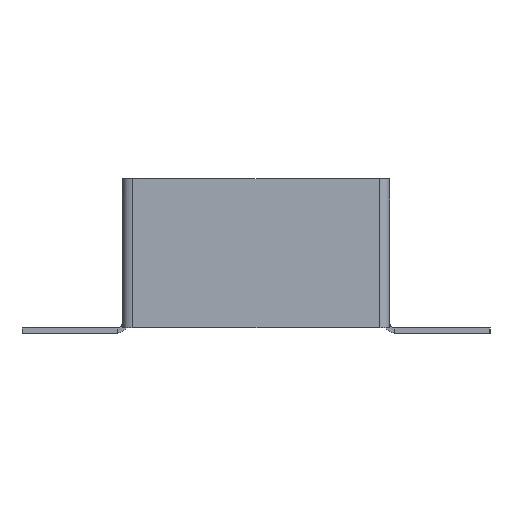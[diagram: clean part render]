
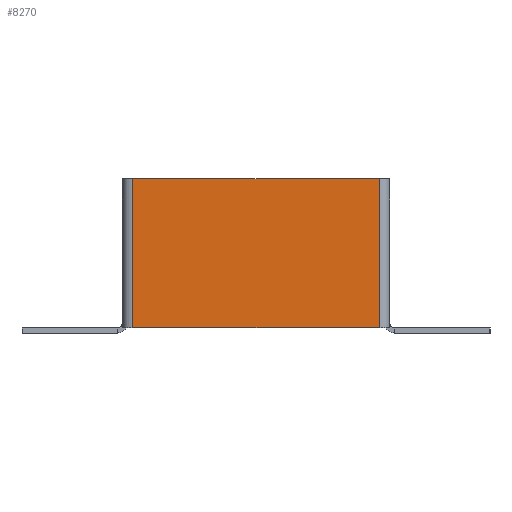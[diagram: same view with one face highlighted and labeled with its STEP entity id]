
A CAD part, front view. The second image highlights one B-rep face of the part: STEP entity #8270.
In plain terms, the highlighted planar face has unit normal (0, -1, 0).
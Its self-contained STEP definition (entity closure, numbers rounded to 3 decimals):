
#129 = CARTESIAN_POINT ( 'NONE',  ( 0., -2., 0. ) ) ;
#372 = VECTOR ( 'NONE', #5570, 1000. ) ;
#882 = DIRECTION ( 'NONE',  ( 0., 0., 1. ) ) ;
#1049 = LINE ( 'NONE', #2361, #8500 ) ;
#1335 = AXIS2_PLACEMENT_3D ( 'NONE', #129, #3182, #882 ) ;
#2046 = FACE_OUTER_BOUND ( 'NONE', #6768, .T. ) ;
#2361 = CARTESIAN_POINT ( 'NONE',  ( 48., -2., -58. ) ) ;
#2549 = DIRECTION ( 'NONE',  ( 0., 0., -1. ) ) ;
#2637 = LINE ( 'NONE', #3360, #3066 ) ;
#3066 = VECTOR ( 'NONE', #4085, 1000. ) ;
#3182 = DIRECTION ( 'NONE',  ( 0., 1., 0. ) ) ;
#3360 = CARTESIAN_POINT ( 'NONE',  ( -50., -2., 0. ) ) ;
#3482 = LINE ( 'NONE', #4136, #372 ) ;
#3697 = VERTEX_POINT ( 'NONE', #8469 ) ;
#3701 = PLANE ( 'NONE',  #1335 ) ;
#4085 = DIRECTION ( 'NONE',  ( 1., 0., 0. ) ) ;
#4097 = CARTESIAN_POINT ( 'NONE',  ( 48., -2., 0. ) ) ;
#4136 = CARTESIAN_POINT ( 'NONE',  ( -50., -2., -58. ) ) ;
#4561 = VERTEX_POINT ( 'NONE', #4826 ) ;
#4826 = CARTESIAN_POINT ( 'NONE',  ( -48., -2., 0. ) ) ;
#5502 = CARTESIAN_POINT ( 'NONE',  ( -48., -2., 0. ) ) ;
#5570 = DIRECTION ( 'NONE',  ( -1., 0., 0. ) ) ;
#5767 = CARTESIAN_POINT ( 'NONE',  ( 48., -2., -58. ) ) ;
#6060 = VERTEX_POINT ( 'NONE', #4097 ) ;
#6241 = ORIENTED_EDGE ( 'NONE', *, *, #8240, .F. ) ;
#6618 = DIRECTION ( 'NONE',  ( 0., 0., 1. ) ) ;
#6673 = EDGE_CURVE ( 'NONE', #4561, #6060, #2637, .T. ) ;
#6768 = EDGE_LOOP ( 'NONE', ( #8406, #6241, #7632, #7176 ) ) ;
#6891 = LINE ( 'NONE', #5502, #8565 ) ;
#7176 = ORIENTED_EDGE ( 'NONE', *, *, #6673, .F. ) ;
#7632 = ORIENTED_EDGE ( 'NONE', *, *, #7972, .T. ) ;
#7874 = VERTEX_POINT ( 'NONE', #5767 ) ;
#7972 = EDGE_CURVE ( 'NONE', #7874, #6060, #1049, .T. ) ;
#8240 = EDGE_CURVE ( 'NONE', #7874, #3697, #3482, .T. ) ;
#8270 = ADVANCED_FACE ( 'NONE', ( #2046 ), #3701, .F. ) ;
#8406 = ORIENTED_EDGE ( 'NONE', *, *, #9069, .T. ) ;
#8469 = CARTESIAN_POINT ( 'NONE',  ( -48., -2., -58. ) ) ;
#8500 = VECTOR ( 'NONE', #6618, 1000. ) ;
#8565 = VECTOR ( 'NONE', #2549, 1000. ) ;
#9069 = EDGE_CURVE ( 'NONE', #4561, #3697, #6891, .T. ) ;
